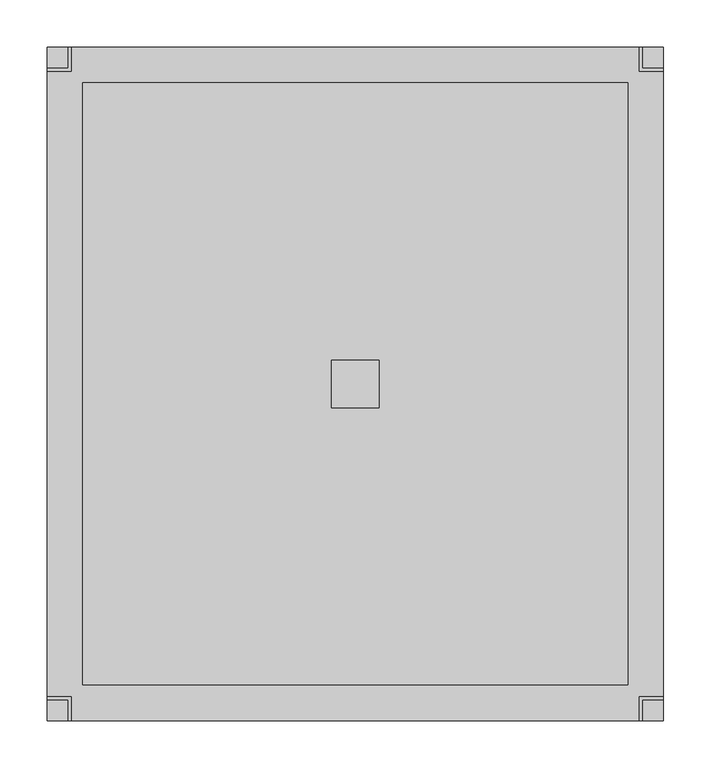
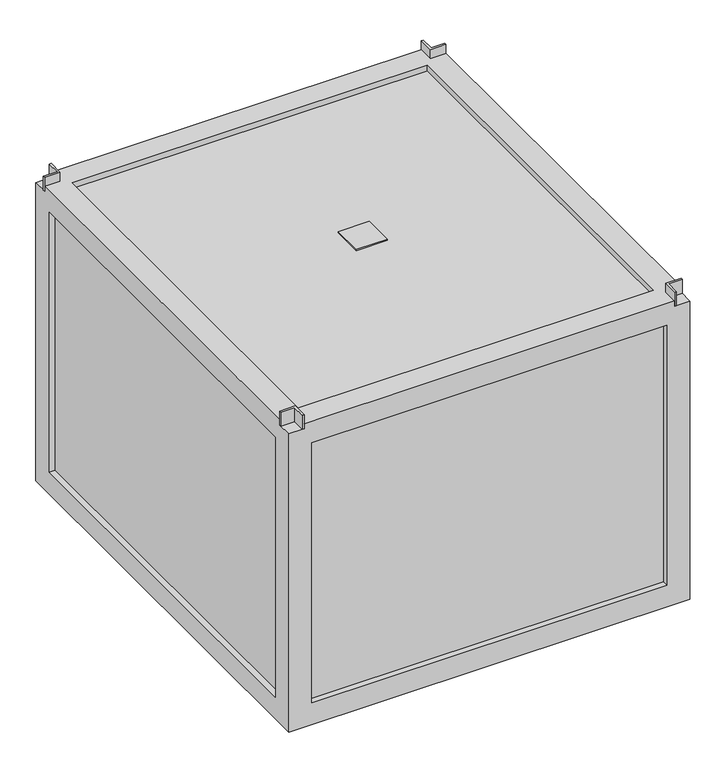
"""IFC4 building model written with IfcOpenShell, lengths in millimetres: proxy geometry, KORF_Вентилятор_UTR_WRH : UTR 50-30 WRH 25.4D."""

from ifc_helpers import new_model, si_unit, frame, origin, place, context, project, spatial, polyline, outline, extrude, faceted_brep, source, transform, mapped, element, save


def mechanical_equipment_79836306(model_context):
    return source(origin(), model_context, "Body", "SolidModel", [
        extrude(outline(polyline([(300.0, -25.0), (300.0, 25.0), (350.0, 25.0), (350.0, -25.0), (300.0, -25.0)])), frame((0.0, 0.0, 260.0), z_axis=(0.0, 0.0, 1.0), x_axis=(1.0, 0.0, 0.0)), (0.0, 0.0, 1.0), 2.0),
        extrude(outline(polyline([(25.0, 330.0), (0.0, 330.0), (0.0, 333.0), (22.0, 333.0), (22.0, 355.0), (25.0, 355.0), (25.0, 330.0)])), frame((0.0, 0.0, 251.0), z_axis=(0.0, 0.0, 1.0), x_axis=(1.0, 0.0, 0.0)), (0.0, 0.0, 1.0), 24.0),
        extrude(outline(polyline([(625.0, 330.0), (625.0, 355.0), (628.0, 355.0), (628.0, 333.0), (650.0, 333.0), (650.0, 330.0), (625.0, 330.0)])), frame((0.0, 0.0, 251.0), z_axis=(0.0, 0.0, 1.0), x_axis=(1.0, 0.0, 0.0)), (0.0, 0.0, 1.0), 24.0),
        extrude(outline(polyline([(25.0, -330.0), (25.0, -355.0), (22.0, -355.0), (22.0, -333.0), (0.0, -333.0), (0.0, -330.0), (25.0, -330.0)])), frame((0.0, 0.0, 251.0), z_axis=(0.0, 0.0, 1.0), x_axis=(1.0, 0.0, 0.0)), (0.0, 0.0, 1.0), 24.0),
        extrude(outline(polyline([(625.0, -330.0), (650.0, -330.0), (650.0, -333.0), (628.0, -333.0), (628.0, -355.0), (625.0, -355.0), (625.0, -330.0)])), frame((0.0, 0.0, 251.0), z_axis=(0.0, 0.0, 1.0), x_axis=(1.0, 0.0, 0.0)), (0.0, 0.0, 1.0), 24.0),
        extrude(outline(polyline([(640.0, 345.0), (640.0, -345.0), (10.0, -345.0), (10.0, 345.0), (640.0, 345.0)])), frame((0.0, 0.0, -250.0), z_axis=(0.0, 0.0, 1.0), x_axis=(1.0, 0.0, 0.0)), (0.0, 0.0, 1.0), 500.0),
        faceted_brep([(0.0, -354.9999993, -259.9999993), (650.0, -354.9999993, -259.9999993), (649.9999993, -354.9999993, 251.0), (625.0, -354.9999993, 251.0), (625.0, -354.9999993, 260.0), (25.0, -354.9999993, 259.9999993), (25.0, -354.9999993, 251.0), (0.0, -354.9999993, 251.0), (37.5, -354.9999993, -222.4999993), (37.5, -354.9999993, 222.5), (612.4999993, -354.9999993, 222.5), (612.4999993, -354.9999993, -222.4999993), (10.000001, -344.9999993, -249.9999993), (10.000001, -344.9999993, 249.9999993), (639.9999993, -344.9999993, 249.999999), (639.999999, -344.9999993, -249.9999993), (37.5, -344.9999993, 222.5), (37.5, -344.9999993, -222.4999993), (612.4999993, -344.9999993, -222.4999993), (612.4999993, -344.9999993, 222.5), (0.0, -317.4999993, 222.4999993), (10.000001, -317.4999993, 222.4999993), (10.000001, -317.4999993, -222.4999993), (0.0, -317.4999993, -222.4999993), (0.0, 354.9999993, -259.9999993), (650.0, 355.0, -259.9999993), (612.5, -317.5, -259.9999993), (612.5, 317.5, -259.9999993), (37.5, 317.5, -259.9999993), (37.5, -317.5, -259.9999993), (10.000001, 344.9999993, -249.9999993), (639.999999, 344.999999, -249.9999993), (612.5, 317.5, -249.9999993), (612.5, -317.5, -249.9999993), (37.5, -317.5, -249.9999993), (37.5, 317.5, -249.9999993), (10.000001, 317.4999993, -222.4999993), (0.0, 317.4999993, -222.4999993), (0.0, 354.9999993, 251.0), (25.0, 354.9999993, 251.0), (25.0, 354.9999993, 259.9999993), (625.0, 354.9999993, 260.0), (625.0, 354.9999993, 251.0), (649.9999993, 354.9999993, 251.0), (37.5, 354.9999993, 222.5), (37.5, 354.9999993, -222.4999993), (612.4999993, 354.9999993, -222.4999993), (612.4999993, 354.9999993, 222.5), (10.000001, 344.9999993, 249.9999993), (639.9999993, 344.9999993, 249.999999), (37.5, 344.9999993, -222.4999993), (37.5, 344.9999993, 222.5), (612.4999993, 344.9999993, 222.5), (612.4999993, 344.9999993, -222.4999993), (10.000001, 317.4999993, 222.4999993), (0.0, 317.4999993, 222.4999993), (0.0, -330.0, 251.0), (0.0, -330.0, 259.9999993), (0.0, 330.0, 259.9999993), (0.0, 330.0, 251.0), (625.0, -330.0, 259.9999993), (649.9999993, -330.0, 259.9999993), (649.9999993, 330.0, 259.9999993), (625.0, 330.0, 259.9999993), (25.0, 330.0, 259.9999993), (25.0, -330.0, 259.9999993), (612.4999993, 317.4999993, 259.9999993), (612.4999993, -317.4999993, 259.9999993), (37.5000007, -317.4999993, 259.9999993), (37.5, 317.4999993, 259.9999993), (37.5, -317.4999993, 249.9999993), (37.5, 317.4999993, 249.9999993), (612.4999993, -317.4999993, 249.9999993), (612.4999993, 317.4999993, 249.9999993), (649.9999993, 330.0, 251.0), (649.9999993, -330.0, 251.0), (649.9999993, -317.5, -222.5), (649.9999993, -317.5, 222.5), (649.9999993, 317.5, 222.5), (649.9999993, 317.5, -222.5), (639.9999993, -317.5, 222.5), (639.9999993, -317.5, -222.5), (639.9999993, 317.5, -222.4999993), (639.9999993, 317.5, 222.5), (25.0, 330.0, 251.0), (625.0, 330.0, 251.0), (625.0, -330.0, 251.0), (25.0, -330.0, 251.0)], [[[0, 1, 2, 3, 4, 5, 6, 7], [8, 9, 10, 11]], [[12, 13, 14, 15], [16, 17, 18, 19]], [[20, 21, 22, 23]], [[0, 24, 25, 1], [26, 27, 28, 29]], [[30, 12, 15, 31], [32, 33, 34, 35]], [[23, 22, 36, 37]], [[25, 24, 38, 39, 40, 41, 42, 43], [44, 45, 46, 47]], [[48, 30, 31, 49], [50, 51, 52, 53]], [[37, 36, 54, 55]], [[24, 0, 7, 56, 57, 58, 59, 38], [20, 23, 37, 55]], [[5, 4, 60, 61, 62, 63, 41, 40, 64, 58, 57, 65], [66, 67, 68, 69]], [[35, 34, 29, 28]], [[69, 68, 70, 71]], [[16, 9, 8, 17]], [[44, 51, 50, 45]], [[13, 48, 49, 14], [72, 73, 71, 70]], [[12, 30, 48, 13], [22, 21, 54, 36]], [[21, 20, 55, 54]], [[1, 25, 43, 74, 62, 61, 75, 2], [76, 77, 78, 79]], [[14, 49, 31, 15], [80, 81, 82, 83]], [[66, 73, 72, 67]], [[67, 72, 70, 68]], [[9, 16, 19, 10]], [[51, 44, 47, 52]], [[80, 83, 78, 77]], [[73, 66, 69, 71]], [[32, 27, 26, 33]], [[33, 26, 29, 34]], [[27, 32, 35, 28]], [[17, 8, 11, 18]], [[45, 50, 53, 46]], [[76, 79, 82, 81]], [[77, 76, 81, 80]], [[79, 78, 83, 82]], [[11, 10, 19, 18]], [[47, 46, 53, 52]], [[59, 84, 39, 38]], [[42, 85, 74, 43]], [[75, 86, 3, 2]], [[87, 56, 7, 6]], [[84, 59, 58, 64]], [[39, 84, 64, 40]], [[85, 42, 41, 63]], [[74, 85, 63, 62]], [[86, 75, 61, 60]], [[3, 86, 60, 4]], [[56, 87, 65, 57]], [[87, 6, 5, 65]]]),
    ])


if __name__ == "__main__":
    model = new_model("IFC4")
    model_context = context("Model", 3, world=origin())
    ifc_project = project(units=[si_unit("LENGTHUNIT", "METRE", prefix="MILLI")], contexts=[model_context])
    site = spatial("IfcSite", under=ifc_project)
    building = spatial("IfcBuilding", under=site)
    placement = place(None, origin())
    mechanical_equipment_shape = mechanical_equipment_79836306(model_context)
    element("IfcBuildingElementProxy", 1, Name="KORF_Вентилятор_UTR_WRH : UTR 50-30 WRH 25.4D", ObjectType="KORF_Вентилятор_UTR_WRH : UTR 50-30 WRH 25.4D", at=placement, inside=building, context=model_context, shape_type="MappedRepresentation", body=[
        mapped(mechanical_equipment_shape, transform((0.0, 0.0, 0.0), x_axis=(1.0, 0.0, 0.0), y_axis=(0.0, 1.0, 0.0), z_axis=(0.0, 0.0, 1.0))),
    ])
    save(model, "model.ifc")
